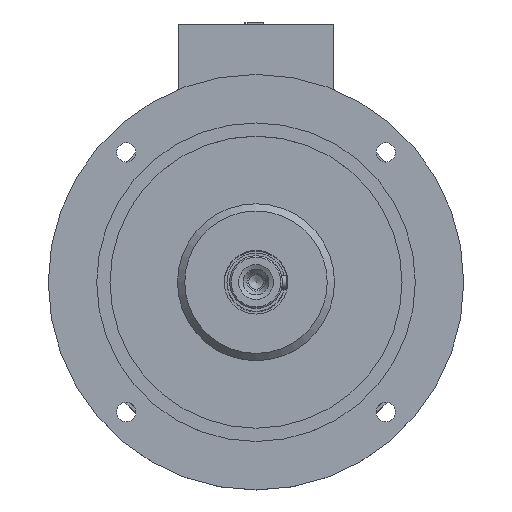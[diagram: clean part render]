
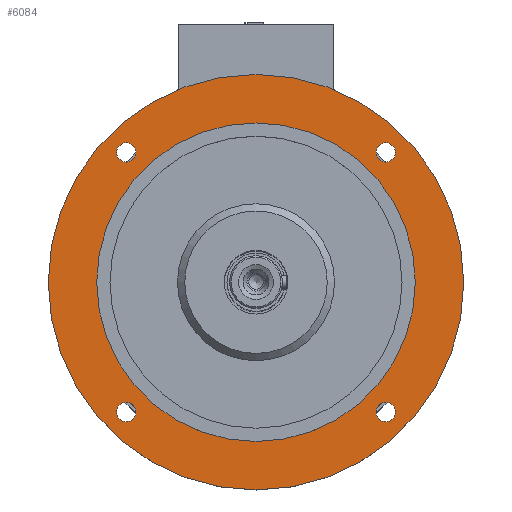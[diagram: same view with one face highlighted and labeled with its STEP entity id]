
A CAD part, top view. The second image highlights one B-rep face of the part: STEP entity #6084.
In plain terms, the highlighted planar face has unit normal (0, 0, 1).
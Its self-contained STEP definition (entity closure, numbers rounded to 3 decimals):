
#52 = CARTESIAN_POINT ( 'NONE',  ( -100.692, 93.692, 178. ) ) ;
#377 = FACE_OUTER_BOUND ( 'NONE', #4249, .T. ) ;
#502 = DIRECTION ( 'NONE',  ( 0., 0., 1. ) ) ;
#677 = VERTEX_POINT ( 'NONE', #5244 ) ;
#736 = CIRCLE ( 'NONE', #2751, 7. ) ;
#765 = ORIENTED_EDGE ( 'NONE', *, *, #10397, .F. ) ;
#1097 = CIRCLE ( 'NONE', #9755, 7. ) ;
#1118 = VERTEX_POINT ( 'NONE', #52 ) ;
#1547 = CARTESIAN_POINT ( 'NONE',  ( 0., 0., 178. ) ) ;
#1720 = CARTESIAN_POINT ( 'NONE',  ( -93.692, -93.692, 178. ) ) ;
#2048 = EDGE_CURVE ( 'NONE', #3523, #3523, #736, .T. ) ;
#2089 = AXIS2_PLACEMENT_3D ( 'NONE', #12215, #10184, #10248 ) ;
#2294 = CIRCLE ( 'NONE', #9138, 115. ) ;
#2425 = EDGE_LOOP ( 'NONE', ( #6301 ) ) ;
#2451 = EDGE_LOOP ( 'NONE', ( #765 ) ) ;
#2611 = DIRECTION ( 'NONE',  ( -1., 0., 0. ) ) ;
#2751 = AXIS2_PLACEMENT_3D ( 'NONE', #6044, #8882, #8063 ) ;
#2766 = ORIENTED_EDGE ( 'NONE', *, *, #7005, .F. ) ;
#3138 = EDGE_LOOP ( 'NONE', ( #2766 ) ) ;
#3267 = DIRECTION ( 'NONE',  ( 1., 0., 0. ) ) ;
#3506 = CIRCLE ( 'NONE', #2089, 7. ) ;
#3523 = VERTEX_POINT ( 'NONE', #6198 ) ;
#4240 = VERTEX_POINT ( 'NONE', #6551 ) ;
#4249 = EDGE_LOOP ( 'NONE', ( #11483 ) ) ;
#4341 = EDGE_CURVE ( 'NONE', #677, #677, #10025, .T. ) ;
#4645 = AXIS2_PLACEMENT_3D ( 'NONE', #5887, #11934, #3267 ) ;
#5184 = CARTESIAN_POINT ( 'NONE',  ( -93.692, -100.692, 178. ) ) ;
#5244 = CARTESIAN_POINT ( 'NONE',  ( -150., 0., 178. ) ) ;
#5251 = ORIENTED_EDGE ( 'NONE', *, *, #7055, .T. ) ;
#5331 = DIRECTION ( 'NONE',  ( 0., 0., -1. ) ) ;
#5826 = FACE_BOUND ( 'NONE', #3138, .T. ) ;
#5887 = CARTESIAN_POINT ( 'NONE',  ( 0., 150., 178. ) ) ;
#6044 = CARTESIAN_POINT ( 'NONE',  ( 93.692, -93.692, 178. ) ) ;
#6084 = ADVANCED_FACE ( 'NONE', ( #7782, #6840, #5826, #10695, #6242, #377 ), #8787, .T. ) ;
#6198 = CARTESIAN_POINT ( 'NONE',  ( 100.692, -93.692, 178. ) ) ;
#6242 = FACE_BOUND ( 'NONE', #10361, .T. ) ;
#6301 = ORIENTED_EDGE ( 'NONE', *, *, #2048, .F. ) ;
#6535 = AXIS2_PLACEMENT_3D ( 'NONE', #8254, #502, #10279 ) ;
#6551 = CARTESIAN_POINT ( 'NONE',  ( 93.692, 100.692, 178. ) ) ;
#6611 = CARTESIAN_POINT ( 'NONE',  ( -115., 0., 178. ) ) ;
#6840 = FACE_BOUND ( 'NONE', #2451, .T. ) ;
#7005 = EDGE_CURVE ( 'NONE', #4240, #4240, #3506, .T. ) ;
#7055 = EDGE_CURVE ( 'NONE', #10399, #10399, #2294, .T. ) ;
#7113 = EDGE_CURVE ( 'NONE', #7139, #7139, #1097, .T. ) ;
#7132 = EDGE_LOOP ( 'NONE', ( #10888 ) ) ;
#7139 = VERTEX_POINT ( 'NONE', #5184 ) ;
#7158 = DIRECTION ( 'NONE',  ( 0., 0., -1. ) ) ;
#7417 = CARTESIAN_POINT ( 'NONE',  ( 0., 0., 178. ) ) ;
#7782 = FACE_BOUND ( 'NONE', #7132, .T. ) ;
#8063 = DIRECTION ( 'NONE',  ( 1., 0., 0. ) ) ;
#8254 = CARTESIAN_POINT ( 'NONE',  ( -93.692, 93.692, 178. ) ) ;
#8787 = PLANE ( 'NONE',  #4645 ) ;
#8882 = DIRECTION ( 'NONE',  ( 0., 0., 1. ) ) ;
#9138 = AXIS2_PLACEMENT_3D ( 'NONE', #7417, #7158, #2611 ) ;
#9218 = AXIS2_PLACEMENT_3D ( 'NONE', #1547, #5331, #12395 ) ;
#9424 = DIRECTION ( 'NONE',  ( 0., -1., 0. ) ) ;
#9610 = DIRECTION ( 'NONE',  ( 0., 0., 1. ) ) ;
#9755 = AXIS2_PLACEMENT_3D ( 'NONE', #1720, #9610, #9424 ) ;
#10025 = CIRCLE ( 'NONE', #9218, 150. ) ;
#10184 = DIRECTION ( 'NONE',  ( 0., 0., 1. ) ) ;
#10248 = DIRECTION ( 'NONE',  ( 0., 1., 0. ) ) ;
#10279 = DIRECTION ( 'NONE',  ( -1., 0., 0. ) ) ;
#10361 = EDGE_LOOP ( 'NONE', ( #5251 ) ) ;
#10397 = EDGE_CURVE ( 'NONE', #1118, #1118, #11701, .T. ) ;
#10399 = VERTEX_POINT ( 'NONE', #6611 ) ;
#10695 = FACE_BOUND ( 'NONE', #2425, .T. ) ;
#10888 = ORIENTED_EDGE ( 'NONE', *, *, #7113, .F. ) ;
#11483 = ORIENTED_EDGE ( 'NONE', *, *, #4341, .F. ) ;
#11701 = CIRCLE ( 'NONE', #6535, 7. ) ;
#11934 = DIRECTION ( 'NONE',  ( 0., 0., 1. ) ) ;
#12215 = CARTESIAN_POINT ( 'NONE',  ( 93.692, 93.692, 178. ) ) ;
#12395 = DIRECTION ( 'NONE',  ( -1., 0., 0. ) ) ;
